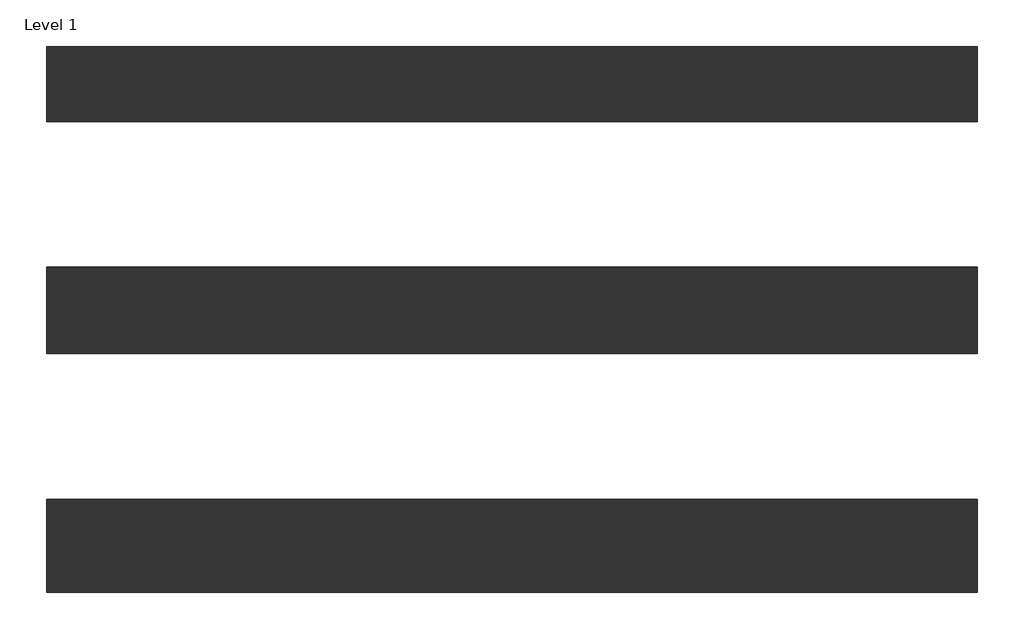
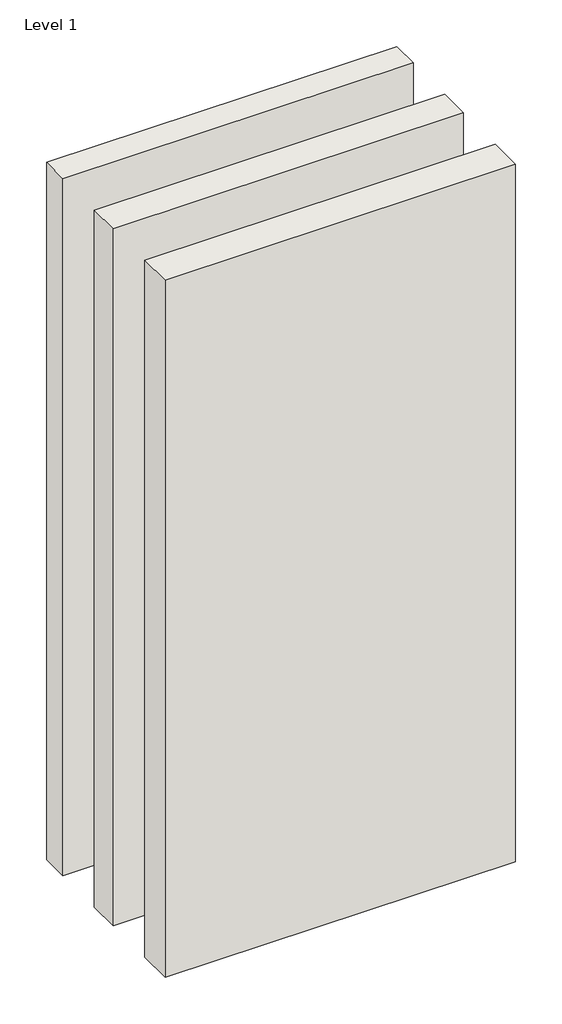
# One storey: 3 walls.
"""IFC4 building model written with IfcOpenShell, lengths in millimetres."""

from ifc_helpers import new_model, si_unit, origin, origin_with_axes, place, context, project, spatial, polyline, outline, extrude, element, save

model = new_model("IFC4")

# Units and contexts
model_context = context("Model", 3, world=origin())
ifc_project = project(units=[si_unit("LENGTHUNIT", "METRE", prefix="MILLI")], contexts=[model_context])

# Site, building, storey
site = spatial("IfcSite", under=ifc_project)
building = spatial("IfcBuilding", under=site)
storey = spatial("IfcBuildingStorey", under=building, Name="Level 1", Elevation=0.0)

# Walls
placement = place(None, origin())
element("IfcWall", 1, ObjectType="Interior-Steel Frame-SecurityWall-CSR1615-154mm", at=placement, inside=storey, context=model_context, shape_type="SweptSolid", body=[
    extrude(outline(polyline([(-737.5841488, -521.2255889), (1162.4158512, -521.2255889), (1162.4158512, -675.2255889), (-737.5841488, -675.2255889), (-737.5841488, -521.2255889)])), origin_with_axes(), (0.0, 0.0, 1.0), 4000.0),
])
element("IfcWall", 2, ObjectType="Interior-Steel Frame-SecurityWall-CSR1615-190mm", at=placement, inside=storey, context=model_context, shape_type="SweptSolid", body=[
    extrude(outline(polyline([(-737.5841488, -1446.2255889), (1162.4158512, -1446.2255889), (1162.4158512, -1636.2255889), (-737.5841488, -1636.2255889), (-737.5841488, -1446.2255889)])), origin_with_axes(), (0.0, 0.0, 1.0), 4000.0),
])
element("IfcWall", 3, ObjectType="Interior-Steel Frame-SecurityWall-CSR1615-177mm", at=placement, inside=storey, context=model_context, shape_type="SweptSolid", body=[
    extrude(outline(polyline([(-737.5841488, -971.2255889), (1162.4158512, -971.2255889), (1162.4158512, -1148.2255889), (-737.5841488, -1148.2255889), (-737.5841488, -971.2255889)])), origin_with_axes(), (0.0, 0.0, 1.0), 4000.0),
])

save(model, "model.ifc")
